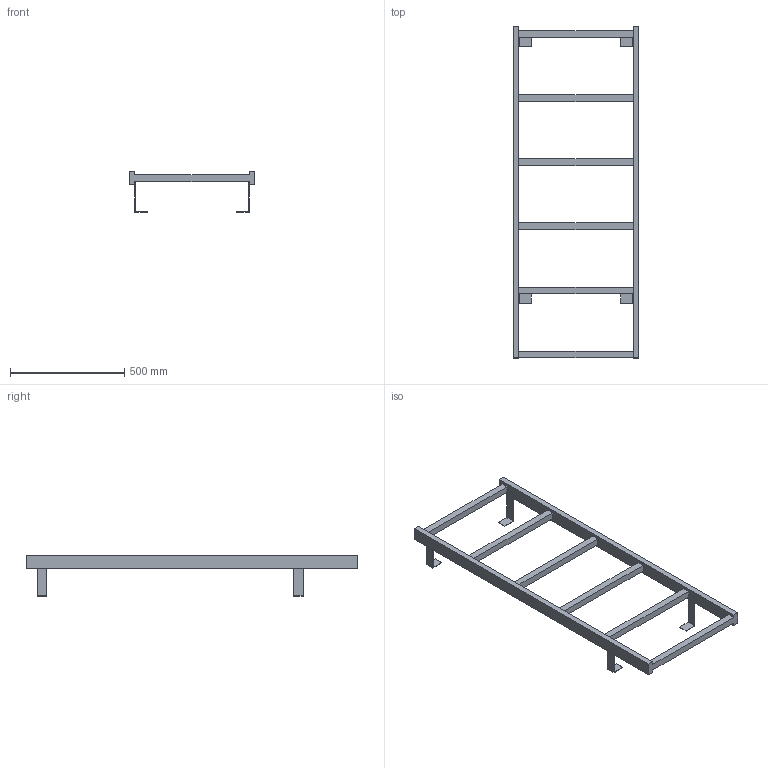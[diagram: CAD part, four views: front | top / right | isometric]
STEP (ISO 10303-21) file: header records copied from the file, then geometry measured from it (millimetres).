
FILE_DESCRIPTION((''),'2;1');
FILE_NAME('52311179','2024-10-17T13:40:52',('wep'),('HUBER SE'),'CREO PARAMETRIC BY PTC INC, 2022162','CREO PARAMETRIC BY PTC INC, 2022162','');
FILE_SCHEMA(('AUTOMOTIVE_DESIGN { 1 0 10303 214 1 1 1 1 }'));
Length unit declared in the file: millimetre
Products named in the file (1): 52311179
Bounding box: 550 x 1450 x 178.5 mm (x, y, z)
Volume: 6897460 mm3; surface area: 889988 mm2
Topology: 1 solids, 1 shells, 66 faces, 192 edges, 124 vertices
Faces by surface type: plane 66
Entity records: 2709 total; most frequent: CARTESIAN_POINT 384, ORIENTED_EDGE 384, DIRECTION 324, VECTOR 192, LINE 192, EDGE_CURVE 192, VERTEX_POINT 124, COLOUR_RGB 106
